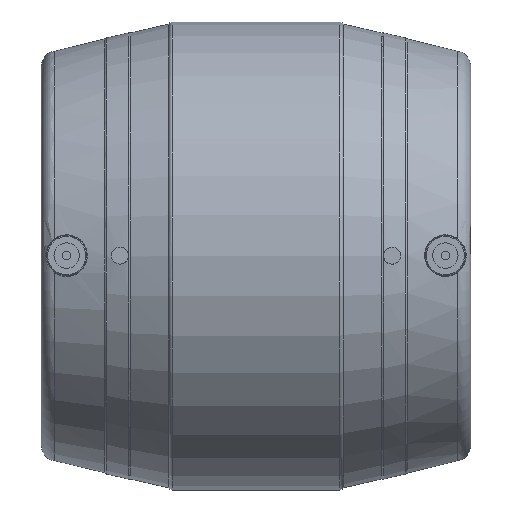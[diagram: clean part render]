
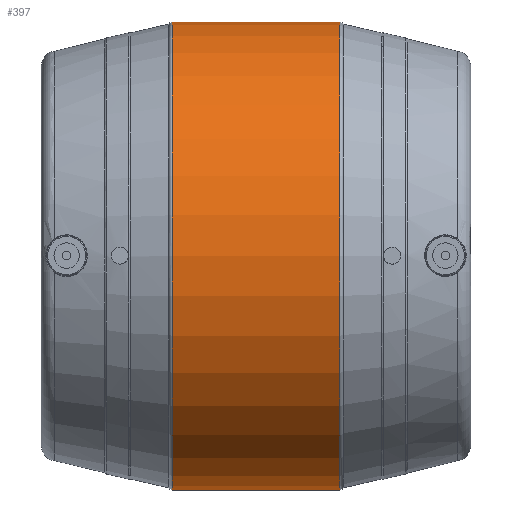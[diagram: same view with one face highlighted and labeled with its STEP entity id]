
A CAD part, top view. The second image highlights one B-rep face of the part: STEP entity #397.
In plain terms, the highlighted cylindrical face has radius 110 mm (diameter 220 mm), a full revolution.
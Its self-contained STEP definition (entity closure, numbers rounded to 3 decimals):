
#21=CYLINDRICAL_SURFACE('',#458,110.);
#77=ORIENTED_EDGE('',*,*,#151,.T.);
#78=ORIENTED_EDGE('',*,*,#152,.T.);
#151=EDGE_CURVE('',#189,#189,#222,.F.);
#152=EDGE_CURVE('',#190,#190,#223,.F.);
#189=VERTEX_POINT('',#737);
#190=VERTEX_POINT('',#739);
#222=CIRCLE('',#459,110.);
#223=CIRCLE('',#460,110.);
#260=EDGE_LOOP('',(#77));
#261=EDGE_LOOP('',(#78));
#328=FACE_BOUND('',#260,.T.);
#329=FACE_BOUND('',#261,.T.);
#397=ADVANCED_FACE('',(#328,#329),#21,.T.);
#458=AXIS2_PLACEMENT_3D('',#735,#549,#550);
#459=AXIS2_PLACEMENT_3D('',#736,#551,#552);
#460=AXIS2_PLACEMENT_3D('',#738,#553,#554);
#549=DIRECTION('',(-1.,0.,0.));
#550=DIRECTION('',(0.,0.,1.));
#551=DIRECTION('',(1.,0.,0.));
#552=DIRECTION('',(0.,0.,-1.));
#553=DIRECTION('',(-1.,0.,0.));
#554=DIRECTION('',(0.,0.,1.));
#735=CARTESIAN_POINT('',(-60.,0.,0.));
#736=CARTESIAN_POINT('',(39.268,0.,0.));
#737=CARTESIAN_POINT('',(39.268,0.,-110.));
#738=CARTESIAN_POINT('',(-39.268,0.,0.));
#739=CARTESIAN_POINT('',(-39.268,0.,110.));
